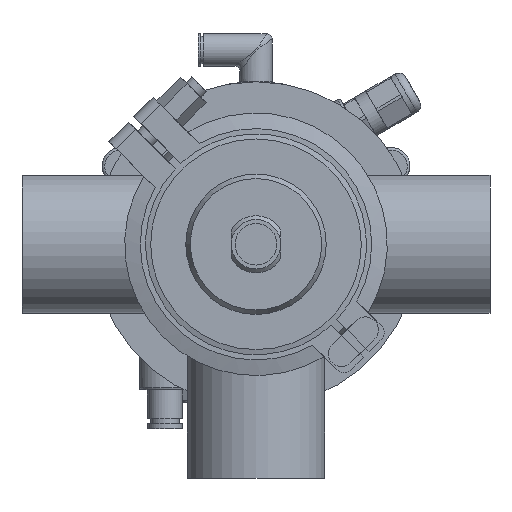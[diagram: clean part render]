
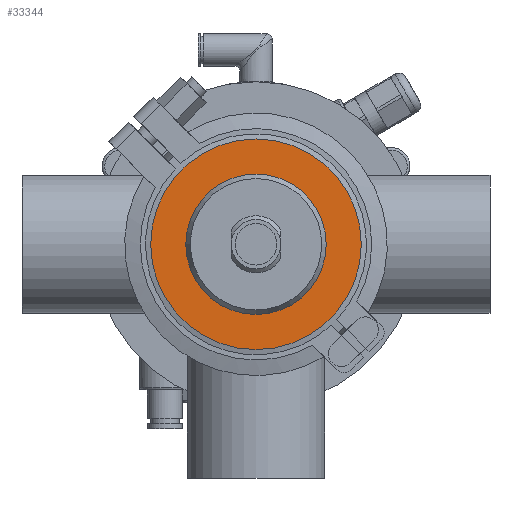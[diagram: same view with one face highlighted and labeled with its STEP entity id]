
A CAD part, front view. The second image highlights one B-rep face of the part: STEP entity #33344.
In plain terms, the highlighted planar face has unit normal (0, -1, 0).
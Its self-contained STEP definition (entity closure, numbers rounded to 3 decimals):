
#2448 = EDGE_CURVE ( 'NONE', #12663, #12663, #58140, .T. ) ;
#3280 = DIRECTION ( 'NONE',  ( 0., 1., 0. ) ) ;
#12362 = CARTESIAN_POINT ( 'NONE',  ( 0., -13., 40.5 ) ) ;
#12663 = VERTEX_POINT ( 'NONE', #12362 ) ;
#17737 = FACE_OUTER_BOUND ( 'NONE', #39038, .T. ) ;
#18360 = DIRECTION ( 'NONE',  ( 0., -1., 0. ) ) ;
#18613 = ORIENTED_EDGE ( 'NONE', *, *, #57551, .T. ) ;
#21056 = CIRCLE ( 'NONE', #44982, 27. ) ;
#21699 = CARTESIAN_POINT ( 'NONE',  ( 0., -13., 0. ) ) ;
#22323 = AXIS2_PLACEMENT_3D ( 'NONE', #35983, #26003, #53792 ) ;
#24891 = EDGE_LOOP ( 'NONE', ( #18613 ) ) ;
#26003 = DIRECTION ( 'NONE',  ( 0., 1., 0. ) ) ;
#28327 = DIRECTION ( 'NONE',  ( 0., 0., -1. ) ) ;
#30103 = VERTEX_POINT ( 'NONE', #39497 ) ;
#32950 = FACE_BOUND ( 'NONE', #24891, .T. ) ;
#33344 = ADVANCED_FACE ( 'NONE', ( #32950, #17737 ), #36773, .T. ) ;
#35983 = CARTESIAN_POINT ( 'NONE',  ( 0., -13., 0. ) ) ;
#36773 = PLANE ( 'NONE',  #39107 ) ;
#39038 = EDGE_LOOP ( 'NONE', ( #54519 ) ) ;
#39107 = AXIS2_PLACEMENT_3D ( 'NONE', #55767, #18360, #28327 ) ;
#39497 = CARTESIAN_POINT ( 'NONE',  ( 0., -13., 27. ) ) ;
#44982 = AXIS2_PLACEMENT_3D ( 'NONE', #21699, #3280, #60303 ) ;
#53792 = DIRECTION ( 'NONE',  ( 0., 0., 1. ) ) ;
#54519 = ORIENTED_EDGE ( 'NONE', *, *, #2448, .F. ) ;
#55767 = CARTESIAN_POINT ( 'NONE',  ( -40.5, -13., 0. ) ) ;
#57551 = EDGE_CURVE ( 'NONE', #30103, #30103, #21056, .T. ) ;
#58140 = CIRCLE ( 'NONE', #22323, 40.5 ) ;
#60303 = DIRECTION ( 'NONE',  ( 0., 0., 1. ) ) ;
